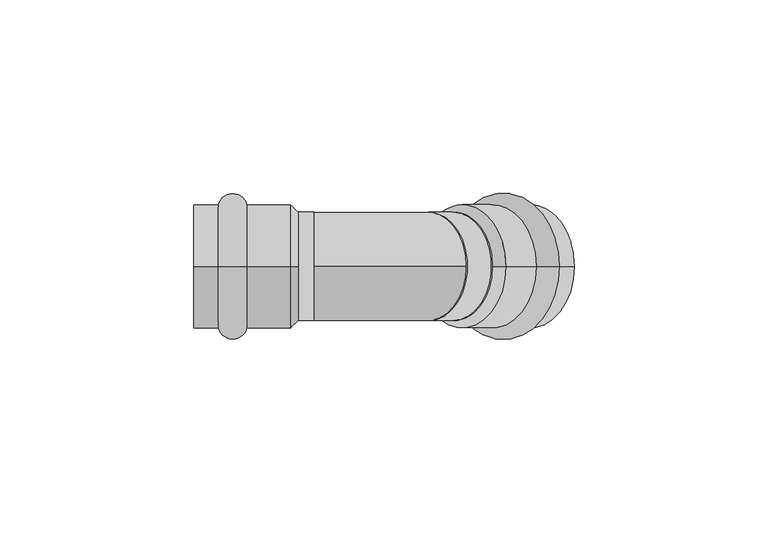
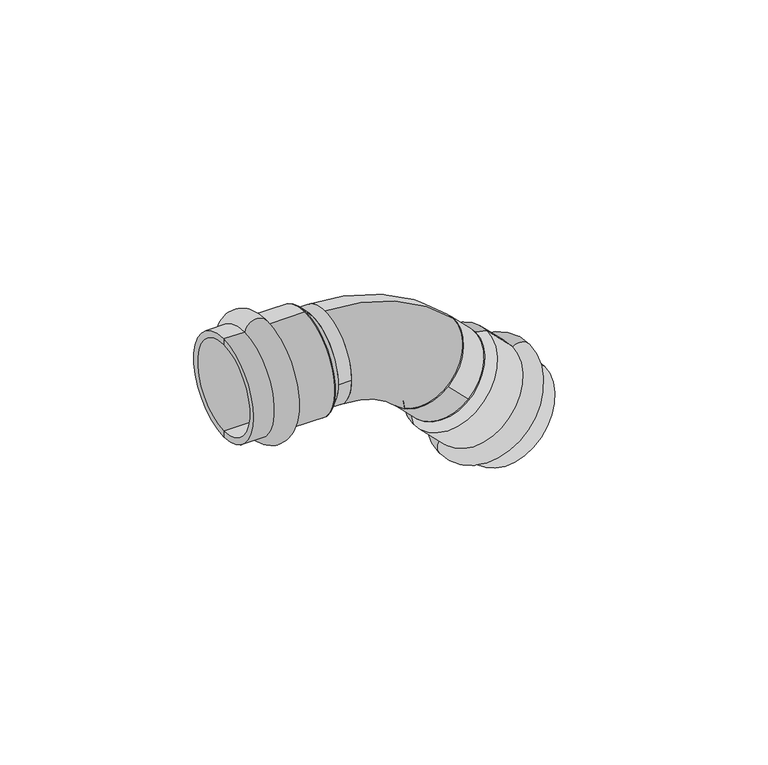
"""IFC4 building model written with IfcOpenShell, lengths in millimetres: pipe fitting geometry, VALTEC_VTi.959.I_Угольник 45° (раструб–раструб) нержавеющая сталь : Тип 1."""

from ifc_helpers import new_model, si_unit, point, frame, frame_2d, origin, origin_2d, place, context, project, spatial, polyline, circle_curve, ellipse_curve, trimmed, segment, composite_curve, outline, extrude, source, transform, mapped, element, save
from ifc_brep_helpers import plane_surface, cylinder_surface, revolved_surface, advanced_brep


def pipe_fitting_10762b62(model_context):
    return source(origin(), model_context, "Body", "SolidModel", [
        advanced_brep(
        [(-6.0, 0.0, 15.9), (-6.0, 0.0, -15.9), (-4.0, 0.0, 14.0), (-4.0, 0.0, -14.0)],
        [
            (0, 1, circle_curve(frame((-6.0, 0.0, 0.0), z_axis=(-1.0, 0.0, 0.0), x_axis=(0.0, 0.0, 1.0)), 15.9)),
            (1, 0, circle_curve(frame((-6.0, 0.0, 0.0), z_axis=(-1.0, 0.0, 0.0), x_axis=(0.0, 0.0, -1.0)), 15.9)),
            (2, 3, circle_curve(frame((-4.0, 0.0, 0.0), z_axis=(1.0, 0.0, 0.0), x_axis=(0.0, 0.0, -1.0)), 14.0)),
            (3, 2, circle_curve(frame((-4.0, 0.0, 0.0), z_axis=(1.0, 0.0, 0.0), x_axis=(0.0, 0.0, 1.0)), 14.0)),
            (3, 1),
            (0, 2),
        ],
        [
            plane_surface(frame((-6.0, 0.0, 0.0), z_axis=(-1.0, 0.0, 0.0), x_axis=(0.0, 1.0, 0.0))),
            plane_surface(frame((-4.0, 0.0, 0.0), z_axis=(1.0, 0.0, 0.0), x_axis=(0.0, 1.0, 0.0))),
            revolved_surface(polyline([(-4.0, 0.0, -13.999999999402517), (-6.0, 0.0, -15.9)]), (10.7368421, 0.0, 0.0), (-1.0, 0.0, 0.0)),
            revolved_surface(polyline([(-4.0, 0.0, 13.999999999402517), (-6.0, 0.0, 15.9)]), (10.7368421, 0.0, 0.0), (-1.0, 0.0, 0.0)),
        ],
        [
            (0, [[1, 2]]),
            (1, [[3, 4]]),
            (2, [[-4, 5, -1, 6]]),
            (3, [[-3, -6, -2, -5]]),
        ],
    ),
        advanced_brep(
        [(27.0473701, 0.0, -32.1363961), (49.5333657, 0.0, -9.6504005), (26.2695526, 0.0, -28.6715729), (46.0685425, 0.0, -8.872583)],
        [
            (0, 1, circle_curve(frame((38.2903679, 0.0, -20.8933983), z_axis=(0.7071067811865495, 0.0, -0.7071067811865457), x_axis=(-0.7071067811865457, 0.0, -0.7071067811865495)), 15.9)),
            (1, 0, circle_curve(frame((38.2903679, 0.0, -20.8933983), z_axis=(0.7071067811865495, 0.0, -0.7071067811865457), x_axis=(0.7071067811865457, 0.0, 0.7071067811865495)), 15.9)),
            (2, 3, circle_curve(frame((36.1690476, 0.0, -18.7720779), z_axis=(-0.7071067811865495, 0.0, 0.7071067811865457), x_axis=(0.7071067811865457, 0.0, 0.7071067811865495)), 14.0)),
            (3, 2, circle_curve(frame((36.1690476, 0.0, -18.7720779), z_axis=(-0.7071067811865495, 0.0, 0.7071067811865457), x_axis=(-0.7071067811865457, 0.0, -0.7071067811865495)), 14.0)),
            (3, 1),
            (0, 2),
        ],
        [
            plane_surface(frame((38.2903679, 0.0, -20.8933983), z_axis=(0.7071067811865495, 0.0, -0.7071067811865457), x_axis=(0.0, 1.0, 0.0))),
            plane_surface(frame((36.1690476, 0.0, -18.7720779), z_axis=(-0.7071067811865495, 0.0, 0.7071067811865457), x_axis=(0.0, 1.0, 0.0))),
            revolved_surface(polyline([(46.06854246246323, 0.0, -8.872583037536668), (49.5333657, 0.0, -9.6504005)]), (20.5382661, 0.0, -3.1412965), (0.7071067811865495, 0.0, -0.7071067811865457)),
            revolved_surface(polyline([(26.269552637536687, 0.0, -28.67157286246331), (27.04737010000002, 0.0, -32.1363961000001)]), (20.5382661, 0.0, -3.1412965), (0.7071067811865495, 0.0, -0.7071067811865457)),
        ],
        [
            (0, [[1, 2]]),
            (1, [[3, 4]]),
            (2, [[-4, 5, -1, 6]]),
            (3, [[-3, -6, -2, -5]]),
        ],
    ),
        advanced_brep(
        [(-24.6242346, 0.0, -15.9), (-24.6242346, 0.0, 15.9), (-17.2757654, 0.0, 15.9), (-17.2757654, 0.0, -15.9), (-31.0, 0.0, -15.9), (-31.0, 0.0, 15.9), (-31.0, 0.0, -14.0), (-31.0, 0.0, 14.0), (-6.0, 0.0, -14.0), (-6.0, 0.0, 14.0), (-6.0, 0.0, -15.9), (-6.0, 0.0, 15.9)],
        [
            (0, 1, circle_curve(frame((-24.6242346, 0.0, 0.0), z_axis=(1.0, 0.0, 0.0), x_axis=(0.0, 0.0, 1.0)), 15.9)),
            (1, 2, circle_curve(frame((-20.95, 0.0, 15.15), z_axis=(0.0, 1.0, 0.0), x_axis=(1.0, 0.0, 0.0)), 3.75)),
            (2, 3, circle_curve(frame((-17.2757654, 0.0, 0.0), z_axis=(-1.0, 0.0, 0.0), x_axis=(0.0, 0.0, 1.0)), 15.9)),
            (3, 0, circle_curve(frame((-20.95, 0.0, -15.15), z_axis=(0.0, 1.0, 0.0), x_axis=(1.0, 0.0, 0.0)), 3.75)),
            (1, 0, circle_curve(frame((-24.6242346, 0.0, 0.0), z_axis=(1.0, 0.0, 0.0), x_axis=(0.0, 0.0, 1.0)), 15.9)),
            (3, 2, circle_curve(frame((-17.2757654, 0.0, 0.0), z_axis=(-1.0, 0.0, 0.0), x_axis=(0.0, 0.0, 1.0)), 15.9)),
            (4, 5, circle_curve(frame((-31.0, 0.0, 0.0), z_axis=(1.0, 0.0, 0.0), x_axis=(0.0, 0.0, 1.0)), 15.9)),
            (5, 1),
            (0, 4),
            (5, 4, circle_curve(frame((-31.0, 0.0, 0.0), z_axis=(1.0, 0.0, 0.0), x_axis=(0.0, 0.0, 1.0)), 15.9)),
            (6, 7, circle_curve(frame((-31.0, 0.0, 0.0), z_axis=(1.0, 0.0, 0.0), x_axis=(0.0, 0.0, 1.0)), 14.0)),
            (7, 5),
            (4, 6),
            (7, 6, circle_curve(frame((-31.0, 0.0, 0.0), z_axis=(1.0, 0.0, 0.0), x_axis=(0.0, 0.0, 1.0)), 14.0)),
            (8, 9, circle_curve(frame((-6.0, 0.0, 0.0), z_axis=(1.0, 0.0, 0.0), x_axis=(0.0, 0.0, 1.0)), 14.0)),
            (9, 7),
            (6, 8),
            (9, 8, circle_curve(frame((-6.0, 0.0, 0.0), z_axis=(1.0, 0.0, 0.0), x_axis=(0.0, 0.0, 1.0)), 14.0)),
            (10, 11, circle_curve(frame((-6.0, 0.0, 0.0), z_axis=(1.0, 0.0, 0.0), x_axis=(0.0, 0.0, 1.0)), 15.9)),
            (11, 9),
            (8, 10),
            (11, 10, circle_curve(frame((-6.0, 0.0, 0.0), z_axis=(1.0, 0.0, 0.0), x_axis=(0.0, 0.0, 1.0)), 15.9)),
            (2, 11),
            (10, 3),
        ],
        [
            revolved_surface(trimmed(ellipse_curve(frame((-20.95, 0.0, 15.15), z_axis=(0.0, -1.0, 0.0), x_axis=(1.0, 0.0, 0.0)), 3.75, 3.75), [point((-17.2757654, 0.0, 15.9))], [point((-24.6242346, 0.0, 15.9))], True, "CARTESIAN"), (-34.5364426, 0.0, 0.0), (-1.0, 0.0, 0.0)),
            cylinder_surface(frame((-34.5364426, 0.0, 0.0), z_axis=(-1.0, 0.0, 0.0), x_axis=(0.0, 0.0, 1.0)), 15.9),
            plane_surface(frame((-31.0, 0.0, 0.0), z_axis=(-1.0, 0.0, 0.0), x_axis=(0.0, 0.0, 1.0))),
            revolved_surface(polyline([(-31.0, 0.0, 14.0), (-6.0, 0.0, 14.0)]), (-34.5364426, 0.0, 0.0), (-1.0, 0.0, 0.0)),
            plane_surface(frame((-6.0, 0.0, 0.0), z_axis=(1.0, 0.0, 0.0), x_axis=(0.0, 0.0, 1.0))),
        ],
        [
            (0, [[1, 2, 3, 4]]),
            (0, [[5, -4, 6, -2]]),
            (1, [[7, 8, -1, 9]]),
            (1, [[10, -9, -5, -8]]),
            (2, [[11, 12, -7, 13]]),
            (2, [[14, -13, -10, -12]]),
            (3, [[15, 16, -11, 17]]),
            (3, [[18, -17, -14, -16]]),
            (4, [[19, 20, -15, 21]]),
            (4, [[22, -21, -18, -20]]),
            (1, [[-3, 23, -19, 24]]),
            (1, [[-6, -24, -22, -23]]),
        ],
    ),
        advanced_brep(
        [(62.7026883, 0.0, -22.8197231), (40.2166927, 0.0, -45.3057187), (35.0205402, 0.0, -40.1095663), (57.5065359, 0.0, -17.6235706), (67.2110353, 0.0, -27.32807), (44.7250396, 0.0, -49.8140656), (65.8675324, 0.0, -28.6715729), (46.0685425, 0.0, -48.4705627), (48.1898628, 0.0, -10.9939033), (28.390873, 0.0, -30.7928932), (49.5333657, 0.0, -9.6504005), (27.0473701, 0.0, -32.1363961)],
        [
            (0, 1, circle_curve(frame((51.4596905, 0.0, -34.0627209), z_axis=(-0.7071067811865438, 0.0, 0.7071067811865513), x_axis=(-0.7071067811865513, 0.0, -0.7071067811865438)), 15.9)),
            (1, 2, circle_curve(frame((38.1489465, 0.0, -42.1773124), z_axis=(0.0, 1.0, 0.0), x_axis=(-0.7071067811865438, 0.0, 0.7071067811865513)), 3.75)),
            (2, 3, circle_curve(frame((46.2635381, 0.0, -28.8665684), z_axis=(0.7071067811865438, 0.0, -0.7071067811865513), x_axis=(-0.7071067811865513, 0.0, -0.7071067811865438)), 15.9)),
            (3, 0, circle_curve(frame((59.574282, 0.0, -20.7519769), z_axis=(0.0, 1.0, 0.0), x_axis=(-0.7071067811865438, 0.0, 0.7071067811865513)), 3.75)),
            (1, 0, circle_curve(frame((51.4596905, 0.0, -34.0627209), z_axis=(-0.7071067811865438, 0.0, 0.7071067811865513), x_axis=(-0.7071067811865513, 0.0, -0.7071067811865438)), 15.9)),
            (3, 2, circle_curve(frame((46.2635381, 0.0, -28.8665684), z_axis=(0.7071067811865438, 0.0, -0.7071067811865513), x_axis=(-0.7071067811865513, 0.0, -0.7071067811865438)), 15.9)),
            (4, 5, circle_curve(frame((55.9680374, 0.0, -38.5710678), z_axis=(-0.7071067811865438, 0.0, 0.7071067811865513), x_axis=(-0.7071067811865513, 0.0, -0.7071067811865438)), 15.9)),
            (5, 1),
            (0, 4),
            (5, 4, circle_curve(frame((55.9680374, 0.0, -38.5710678), z_axis=(-0.7071067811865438, 0.0, 0.7071067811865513), x_axis=(-0.7071067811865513, 0.0, -0.7071067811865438)), 15.9)),
            (6, 7, circle_curve(frame((55.9680374, 0.0, -38.5710678), z_axis=(-0.7071067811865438, 0.0, 0.7071067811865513), x_axis=(-0.7071067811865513, 0.0, -0.7071067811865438)), 14.0)),
            (7, 5),
            (4, 6),
            (7, 6, circle_curve(frame((55.9680374, 0.0, -38.5710678), z_axis=(-0.7071067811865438, 0.0, 0.7071067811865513), x_axis=(-0.7071067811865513, 0.0, -0.7071067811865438)), 14.0)),
            (8, 9, circle_curve(frame((38.2903679, 0.0, -20.8933983), z_axis=(-0.7071067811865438, 0.0, 0.7071067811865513), x_axis=(-0.7071067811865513, 0.0, -0.7071067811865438)), 14.0)),
            (9, 7),
            (6, 8),
            (9, 8, circle_curve(frame((38.2903679, 0.0, -20.8933983), z_axis=(-0.7071067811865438, 0.0, 0.7071067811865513), x_axis=(-0.7071067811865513, 0.0, -0.7071067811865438)), 14.0)),
            (10, 11, circle_curve(frame((38.2903679, 0.0, -20.8933983), z_axis=(-0.7071067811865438, 0.0, 0.7071067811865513), x_axis=(-0.7071067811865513, 0.0, -0.7071067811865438)), 15.9)),
            (11, 9),
            (8, 10),
            (11, 10, circle_curve(frame((38.2903679, 0.0, -20.8933983), z_axis=(-0.7071067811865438, 0.0, 0.7071067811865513), x_axis=(-0.7071067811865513, 0.0, -0.7071067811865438)), 15.9)),
            (2, 11),
            (10, 3),
        ],
        [
            revolved_surface(trimmed(ellipse_curve(frame((38.1489465, 0.0, -42.1773124), z_axis=(0.0, -1.0, 0.0), x_axis=(-0.7071067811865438, 0.0, 0.7071067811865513)), 3.75, 3.75), [point((35.0205402, 0.0, -40.1095663))], [point((40.2166927, 0.0, -45.3057187))], True, "CARTESIAN"), (58.46868, 0.0, -41.0717104), (0.7071067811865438, 0.0, -0.7071067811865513)),
            cylinder_surface(frame((58.46868, 0.0, -41.0717104), z_axis=(0.7071067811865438, 0.0, -0.7071067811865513), x_axis=(-0.7071067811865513, 0.0, -0.7071067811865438)), 15.9),
            plane_surface(frame((55.9680374, 0.0, -38.5710678), z_axis=(0.7071067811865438, 0.0, -0.7071067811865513), x_axis=(-0.7071067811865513, 0.0, -0.7071067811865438))),
            revolved_surface(polyline([(46.068542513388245, 0.0, -48.47056278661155), (28.390872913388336, 0.0, -30.792893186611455)]), (58.46868, 0.0, -41.0717104), (0.7071067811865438, 0.0, -0.7071067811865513)),
            plane_surface(frame((38.2903679, 0.0, -20.8933983), z_axis=(-0.7071067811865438, 0.0, 0.7071067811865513), x_axis=(-0.7071067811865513, 0.0, -0.7071067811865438))),
        ],
        [
            (0, [[1, 2, 3, 4]]),
            (0, [[5, -4, 6, -2]]),
            (1, [[7, 8, -1, 9]]),
            (1, [[10, -9, -5, -8]]),
            (2, [[11, 12, -7, 13]]),
            (2, [[14, -13, -10, -12]]),
            (3, [[15, 16, -11, 17]]),
            (3, [[18, -17, -14, -16]]),
            (4, [[19, 20, -15, 21]]),
            (4, [[22, -21, -18, -20]]),
            (1, [[-3, 23, -19, 24]]),
            (1, [[-6, -24, -22, -23]]),
        ],
    ),
        extrude(outline(composite_curve([segment(trimmed(circle_curve(origin_2d(), 14.0), [point((-14.0, 0.0))], [point((14.0, 0.0))], False, "CARTESIAN"), True, "CONTINUOUS"), segment(trimmed(circle_curve(origin_2d(), 14.0), [point((14.0, 0.0))], [point((-14.0, 0.0))], False, "CARTESIAN"), True, "CONTINUOUS")], self_intersect=False)), frame((-4.0, 0.0, 0.0), z_axis=(1.0, 0.0, 0.0), x_axis=(0.0, 1.0, 0.0)), (0.0, 0.0, 1.0), 4.0),
        extrude(outline(composite_curve([segment(trimmed(circle_curve(frame_2d((0.0, -14.0)), 14.0), [point((0.0, -28.0))], [point((0.0, 0.0))], False, "CARTESIAN"), True, "CONTINUOUS"), segment(trimmed(circle_curve(frame_2d((0.0, -14.0)), 14.0), [point((0.0, 0.0))], [point((0.0, -28.0))], False, "CARTESIAN"), True, "CONTINUOUS")], self_intersect=False)), frame((36.1690476, -14.0, -18.7720779), z_axis=(-0.7071067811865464, 0.0, 0.7071067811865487), x_axis=(-0.7071067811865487, 0.0, -0.7071067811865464)), (0.0, 0.0, 1.0), 9.1507576),
        advanced_brep(
        [(0.0, 0.0, -14.0), (0.0, 0.0, 14.0), (19.7989899, 0.0, -22.2010101), (39.5979797, 0.0, -2.4020203)],
        [
            (0, 1, circle_curve(frame((0.0, 0.0, 0.0), z_axis=(-1.0, 0.0, 0.0), x_axis=(0.0, 0.0, 1.0)), 14.0)),
            (1, 0, circle_curve(frame((0.0, 0.0, 0.0), z_axis=(-1.0, 0.0, 0.0), x_axis=(0.0, 0.0, 1.0)), 14.0)),
            (2, 3, circle_curve(frame((29.6984848, 0.0, -12.3015152), z_axis=(0.7071067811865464, 0.0, -0.7071067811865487), x_axis=(0.7071067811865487, 0.0, 0.7071067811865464)), 14.0)),
            (3, 2, circle_curve(frame((29.6984848, 0.0, -12.3015152), z_axis=(0.7071067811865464, 0.0, -0.7071067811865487), x_axis=(0.7071067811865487, 0.0, 0.7071067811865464)), 14.0)),
            (3, 1, circle_curve(frame((0.0, 0.0, -42.0), z_axis=(0.0, -1.0, 0.0), x_axis=(0.0, 0.0, 1.0)), 56.0)),
            (0, 2, circle_curve(frame((0.0, 0.0, -42.0), z_axis=(0.0, 1.0, 0.0), x_axis=(0.0, 0.0, 1.0)), 28.0)),
        ],
        [
            plane_surface(frame((0.0, 0.0, 0.0), z_axis=(-1.0, 0.0, 0.0), x_axis=(0.0, -1.0, 0.0))),
            plane_surface(frame((29.6984848, 0.0, -12.3015152), z_axis=(0.7071067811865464, 0.0, -0.7071067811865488), x_axis=(0.0, -1.0, 0.0))),
            revolved_surface(trimmed(ellipse_curve(frame((0.0, 0.0, 0.0), z_axis=(-1.0, 0.0, 0.0), x_axis=(0.0, 0.0, 1.0)), 14.0, 14.0), [point((0.0, 0.0, -14.0))], [point((0.0, 0.0, 14.0))], True, "CARTESIAN"), (0.0, 0.0, -42.0), (0.0, 1.0, 0.0)),
            revolved_surface(trimmed(ellipse_curve(frame((0.0, 0.0, 0.0), z_axis=(-1.0, 0.0, 0.0), x_axis=(0.0, 0.0, 1.0)), 14.0, 14.0), [point((0.0, 0.0, 14.0))], [point((0.0, 0.0, -14.0))], True, "CARTESIAN"), (0.0, 0.0, -42.0), (0.0, 1.0, 0.0)),
        ],
        [
            (0, [[1, 2]]),
            (1, [[3, 4]]),
            (2, [[5, -1, 6, -4]]),
            (3, [[-6, -2, -5, -3]]),
        ],
    ),
    ])


if __name__ == "__main__":
    model = new_model("IFC4")
    model_context = context("Model", 3, world=origin())
    ifc_project = project(units=[si_unit("LENGTHUNIT", "METRE", prefix="MILLI")], contexts=[model_context])
    site = spatial("IfcSite", under=ifc_project)
    building = spatial("IfcBuilding", under=site)
    placement = place(None, origin())
    pipe_fitting_shape = pipe_fitting_10762b62(model_context)
    element("IfcPipeFitting", 1, ObjectType="VALTEC_VTi.959.I_Угольник 45° (раструб–раструб) нержавеющая сталь : Тип 1", at=placement, inside=building, context=model_context, shape_type="MappedRepresentation", body=[
        mapped(pipe_fitting_shape, transform((0.0, 0.0, 0.0), x_axis=(1.0, 0.0, 0.0), y_axis=(0.0, 1.0, 0.0), z_axis=(0.0, 0.0, 1.0))),
    ])
    save(model, "model.ifc")
